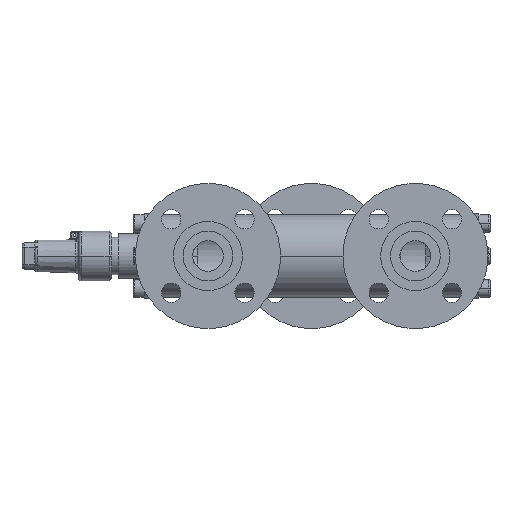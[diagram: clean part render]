
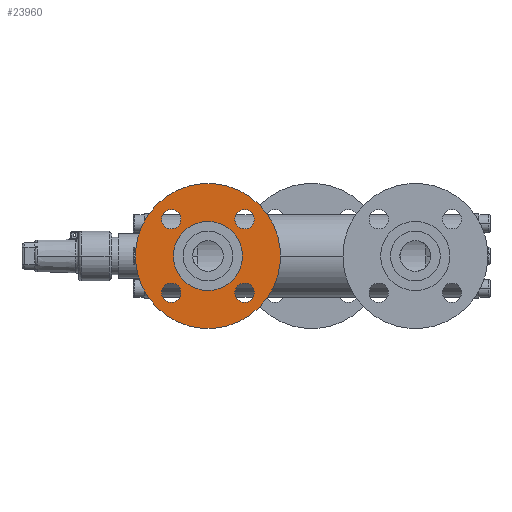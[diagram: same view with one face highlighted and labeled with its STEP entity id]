
A CAD part, left-side view. The second image highlights one B-rep face of the part: STEP entity #23960.
In plain terms, the highlighted planar face has unit normal (-1, 0, 0) as drawn and (0, -1, 0) by its records, which use the part's own axes.
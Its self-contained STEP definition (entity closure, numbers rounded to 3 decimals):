
#16768 = EDGE_LOOP ( 'NONE', ( #15775, #14776 ) ) ;
#16804 = EDGE_CURVE ( 'NONE', #16379, #15950, #4863, .T. ) ;
#17245 = EDGE_CURVE ( 'NONE', #5081, #5434, #5282, .T. ) ;
#1114 = ORIENTED_EDGE ( 'NONE', *, *, #28172, .T. ) ;
#1235 = VERTEX_POINT ( 'NONE', #5332 ) ;
#17646 = CIRCLE ( 'NONE', #17647, 25. ) ;
#17647 = AXIS2_PLACEMENT_3D ( 'NONE', #17648, #17649, #17650 ) ;
#17648 = CARTESIAN_POINT ( 'NONE',  ( 0., 4., 0. ) ) ;
#17649 = DIRECTION ( 'NONE',  ( 0., -1., 0. ) ) ;
#17650 = DIRECTION ( 'NONE',  ( 1., 0., 0. ) ) ;
#1473 = VERTEX_POINT ( 'NONE', #5587 ) ;
#1679 = ORIENTED_EDGE ( 'NONE', *, *, #21362, .T. ) ;
#1717 = EDGE_CURVE ( 'NONE', #1473, #1235, #5905, .T. ) ;
#18741 = CARTESIAN_POINT ( 'NONE',  ( 30.5, 4., 0. ) ) ;
#18812 = CARTESIAN_POINT ( 'NONE',  ( 44.5, 4., 0. ) ) ;
#18886 = EDGE_CURVE ( 'NONE', #21958, #22187, #6418, .T. ) ;
#18922 = ORIENTED_EDGE ( 'NONE', *, *, #17245, .F. ) ;
#2597 = CARTESIAN_POINT ( 'NONE',  ( -7., 4., -37.5 ) ) ;
#19027 = CIRCLE ( 'NONE', #19028, 7. ) ;
#19028 = AXIS2_PLACEMENT_3D ( 'NONE', #19029, #19030, #19031 ) ;
#19029 = CARTESIAN_POINT ( 'NONE',  ( -37.5, 4., 0. ) ) ;
#19030 = DIRECTION ( 'NONE',  ( 0., 1., 0. ) ) ;
#19031 = DIRECTION ( 'NONE',  ( 1., 0., 0. ) ) ;
#19060 = CIRCLE ( 'NONE', #19061, 7. ) ;
#19061 = AXIS2_PLACEMENT_3D ( 'NONE', #19062, #19063, #19064 ) ;
#19062 = CARTESIAN_POINT ( 'NONE',  ( 37.5, 4., 0. ) ) ;
#19063 = DIRECTION ( 'NONE',  ( 0., 1., 0. ) ) ;
#19064 = DIRECTION ( 'NONE',  ( 1., 0., 0. ) ) ;
#3307 = CARTESIAN_POINT ( 'NONE',  ( -52.5, 4., 0. ) ) ;
#3308 = CARTESIAN_POINT ( 'NONE',  ( 7., 4., -37.5 ) ) ;
#19937 = ORIENTED_EDGE ( 'NONE', *, *, #9421, .F. ) ;
#3837 = CARTESIAN_POINT ( 'NONE',  ( 52.5, 4., 0. ) ) ;
#3838 = CIRCLE ( 'NONE', #3839, 7. ) ;
#3839 = AXIS2_PLACEMENT_3D ( 'NONE', #3840, #3841, #3842 ) ;
#3840 = CARTESIAN_POINT ( 'NONE',  ( 0., 4., -37.5 ) ) ;
#3841 = DIRECTION ( 'NONE',  ( 0., 1., 0. ) ) ;
#3842 = DIRECTION ( 'NONE',  ( 1., 0., 0. ) ) ;
#4148 = CIRCLE ( 'NONE', #4149, 7. ) ;
#4149 = AXIS2_PLACEMENT_3D ( 'NONE', #4150, #4151, #4152 ) ;
#4150 = CARTESIAN_POINT ( 'NONE',  ( 0., 4., -37.5 ) ) ;
#4151 = DIRECTION ( 'NONE',  ( 0., 1., 0. ) ) ;
#4152 = DIRECTION ( 'NONE',  ( 1., 0., 0. ) ) ;
#4222 = CARTESIAN_POINT ( 'NONE',  ( -7., 4., 37.5 ) ) ;
#4226 = CIRCLE ( 'NONE', #4246, 52.5 ) ;
#4246 = AXIS2_PLACEMENT_3D ( 'NONE', #4247, #4248, #4249 ) ;
#4247 = CARTESIAN_POINT ( 'NONE',  ( 0., 4., 0. ) ) ;
#4248 = DIRECTION ( 'NONE',  ( 0., -1., 0. ) ) ;
#4249 = DIRECTION ( 'NONE',  ( 1., 0., 0. ) ) ;
#21045 = EDGE_LOOP ( 'NONE', ( #19937, #18922 ) ) ;
#4677 = CARTESIAN_POINT ( 'NONE',  ( 7., 4., 37.5 ) ) ;
#4863 = CIRCLE ( 'NONE', #4864, 7. ) ;
#4864 = AXIS2_PLACEMENT_3D ( 'NONE', #4865, #4866, #4867 ) ;
#4865 = CARTESIAN_POINT ( 'NONE',  ( 0., 4., 37.5 ) ) ;
#4866 = DIRECTION ( 'NONE',  ( 0., 1., 0. ) ) ;
#4867 = DIRECTION ( 'NONE',  ( 1., 0., 0. ) ) ;
#21305 = ORIENTED_EDGE ( 'NONE', *, *, #1717, .T. ) ;
#21362 = EDGE_CURVE ( 'NONE', #27694, #27933, #9273, .T. ) ;
#5081 = VERTEX_POINT ( 'NONE', #9825 ) ;
#5282 = CIRCLE ( 'NONE', #5283, 25. ) ;
#5283 = AXIS2_PLACEMENT_3D ( 'NONE', #5284, #5304, #5305 ) ;
#5284 = CARTESIAN_POINT ( 'NONE',  ( 0., 4., 0. ) ) ;
#5304 = DIRECTION ( 'NONE',  ( 0., -1., 0. ) ) ;
#5305 = DIRECTION ( 'NONE',  ( 1., 0., 0. ) ) ;
#5332 = CARTESIAN_POINT ( 'NONE',  ( -44.5, 4., 0. ) ) ;
#5434 = VERTEX_POINT ( 'NONE', #9928 ) ;
#21844 = ORIENTED_EDGE ( 'NONE', *, *, #22394, .T. ) ;
#5503 = EDGE_CURVE ( 'NONE', #15950, #16379, #9941, .T. ) ;
#21958 = VERTEX_POINT ( 'NONE', #18741 ) ;
#5587 = CARTESIAN_POINT ( 'NONE',  ( -30.5, 4., 0. ) ) ;
#22187 = VERTEX_POINT ( 'NONE', #18812 ) ;
#5905 = CIRCLE ( 'NONE', #5906, 7. ) ;
#5906 = AXIS2_PLACEMENT_3D ( 'NONE', #5907, #5908, #5909 ) ;
#5907 = CARTESIAN_POINT ( 'NONE',  ( -37.5, 4., 0. ) ) ;
#5908 = DIRECTION ( 'NONE',  ( 0., 1., 0. ) ) ;
#5909 = DIRECTION ( 'NONE',  ( 1., 0., 0. ) ) ;
#22374 = EDGE_LOOP ( 'NONE', ( #21844, #21305 ) ) ;
#22394 = EDGE_CURVE ( 'NONE', #1235, #1473, #19027, .T. ) ;
#22415 = EDGE_CURVE ( 'NONE', #22187, #21958, #19060, .T. ) ;
#22628 = ORIENTED_EDGE ( 'NONE', *, *, #22415, .T. ) ;
#6418 = CIRCLE ( 'NONE', #6419, 7. ) ;
#6419 = AXIS2_PLACEMENT_3D ( 'NONE', #6420, #6421, #6422 ) ;
#6420 = CARTESIAN_POINT ( 'NONE',  ( 37.5, 4., 0. ) ) ;
#6421 = DIRECTION ( 'NONE',  ( 0., 1., 0. ) ) ;
#6422 = DIRECTION ( 'NONE',  ( 1., 0., 0. ) ) ;
#23162 = ORIENTED_EDGE ( 'NONE', *, *, #18886, .T. ) ;
#23708 = EDGE_LOOP ( 'NONE', ( #23162, #22628 ) ) ;
#23960 = ADVANCED_FACE ( 'NONE', ( #14533, #14534, #14535, #14536, #14537, #14538 ), #14539, .T. ) ;
#9273 = CIRCLE ( 'NONE', #9274, 52.5 ) ;
#9274 = AXIS2_PLACEMENT_3D ( 'NONE', #9275, #9276, #9277 ) ;
#9275 = CARTESIAN_POINT ( 'NONE',  ( 0., 4., 0. ) ) ;
#9276 = DIRECTION ( 'NONE',  ( 0., -1., 0. ) ) ;
#9277 = DIRECTION ( 'NONE',  ( 1., 0., 0. ) ) ;
#9421 = EDGE_CURVE ( 'NONE', #5434, #5081, #17646, .T. ) ;
#9825 = CARTESIAN_POINT ( 'NONE',  ( -25., 4., 0. ) ) ;
#9928 = CARTESIAN_POINT ( 'NONE',  ( 25., 4., 0. ) ) ;
#9941 = CIRCLE ( 'NONE', #9962, 7. ) ;
#9962 = AXIS2_PLACEMENT_3D ( 'NONE', #9963, #9964, #9965 ) ;
#9963 = CARTESIAN_POINT ( 'NONE',  ( 0., 4., 37.5 ) ) ;
#9964 = DIRECTION ( 'NONE',  ( 0., 1., 0. ) ) ;
#9965 = DIRECTION ( 'NONE',  ( 1., 0., 0. ) ) ;
#27453 = VERTEX_POINT ( 'NONE', #2597 ) ;
#27694 = VERTEX_POINT ( 'NONE', #3307 ) ;
#27695 = VERTEX_POINT ( 'NONE', #3308 ) ;
#27933 = VERTEX_POINT ( 'NONE', #3837 ) ;
#27934 = EDGE_CURVE ( 'NONE', #27695, #27453, #3838, .T. ) ;
#28172 = EDGE_CURVE ( 'NONE', #27933, #27694, #4226, .T. ) ;
#12054 = EDGE_LOOP ( 'NONE', ( #1679, #1114 ) ) ;
#12309 = ORIENTED_EDGE ( 'NONE', *, *, #16804, .T. ) ;
#13308 = ORIENTED_EDGE ( 'NONE', *, *, #5503, .T. ) ;
#14310 = EDGE_LOOP ( 'NONE', ( #13308, #12309 ) ) ;
#14533 = FACE_BOUND ( 'NONE', #23708, .T. ) ;
#14534 = FACE_BOUND ( 'NONE', #22374, .T. ) ;
#14535 = FACE_BOUND ( 'NONE', #21045, .T. ) ;
#14536 = FACE_BOUND ( 'NONE', #16768, .T. ) ;
#14537 = FACE_BOUND ( 'NONE', #14310, .T. ) ;
#14538 = FACE_OUTER_BOUND ( 'NONE', #12054, .T. ) ;
#14539 = PLANE ( 'NONE',  #14540 ) ;
#14540 = AXIS2_PLACEMENT_3D ( 'NONE', #14541, #14542, #14543 ) ;
#14541 = CARTESIAN_POINT ( 'NONE',  ( 0., 4., 0. ) ) ;
#14542 = DIRECTION ( 'NONE',  ( 0., -1., 0. ) ) ;
#14543 = DIRECTION ( 'NONE',  ( 1., 0., 0. ) ) ;
#14776 = ORIENTED_EDGE ( 'NONE', *, *, #27934, .T. ) ;
#15774 = EDGE_CURVE ( 'NONE', #27453, #27695, #4148, .T. ) ;
#15775 = ORIENTED_EDGE ( 'NONE', *, *, #15774, .T. ) ;
#15950 = VERTEX_POINT ( 'NONE', #4222 ) ;
#16379 = VERTEX_POINT ( 'NONE', #4677 ) ;
